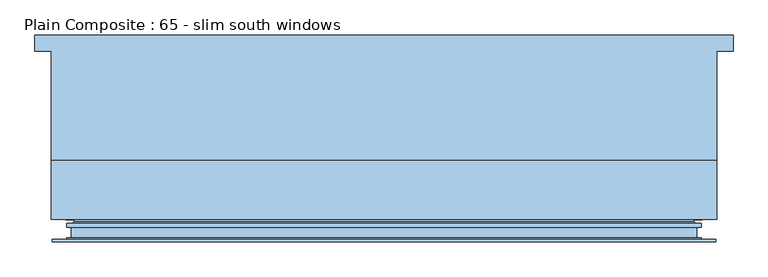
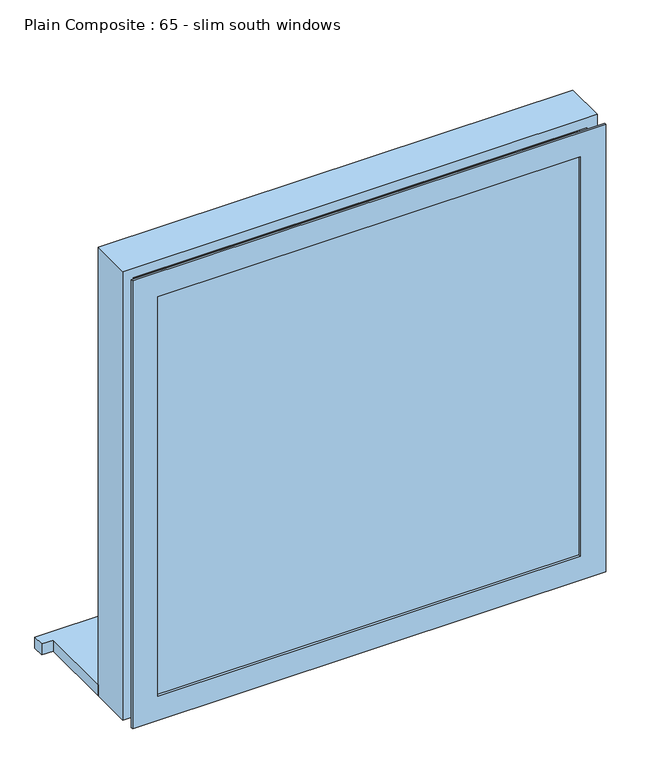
"""IFC4 building model written with IfcOpenShell, lengths in millimetres: window geometry, Plain Composite : 65 - slim south windows."""

from ifc_helpers import new_model, si_unit, frame, origin, place, context, project, spatial, polyline, outline, extrude, faceted_brep, source, transform, mapped, element, save


def plain_composite_65_slim_south_windows_501c9886(model_context):
    return source(origin(), model_context, "Body", "SolidModel", [
        extrude(outline(polyline([(-820.0, 161.5434322), (240.0, 161.5434322), (240.0, 136.5434322), (215.0, 136.5434322), (215.0, -29.4565678), (-795.0, -29.4565678), (-795.0, 136.5434322), (-820.0, 136.5434322), (-820.0, 161.5434322)])), frame((0.0, 0.0, 1100.0), z_axis=(0.0, 0.0, 1.0), x_axis=(1.0, 0.0, 0.0)), (0.0, 0.0, 1.0), 25.0),
        extrude(outline(polyline([(172.0, -123.4565678), (172.0, -147.4565678), (-752.0, -147.4565678), (-752.0, -123.4565678), (172.0, -123.4565678)])), frame((0.0, 0.0, 1143.0), z_axis=(0.0, 0.0, 1.0), x_axis=(1.0, 0.0, 0.0)), (0.0, 0.0, 1.0), 924.0),
        faceted_brep([(-740.0, -147.4565678, 1155.0), (-740.0, -147.4565678, 2055.0), (-740.0, -153.4565678, 2055.0), (-740.0, -153.4565678, 1155.0), (-752.0, -123.4565678, 1143.0), (-752.0, -123.4565678, 2067.0), (-752.0, -147.4565678, 2067.0), (-752.0, -147.4565678, 1143.0), (-740.0, -100.4565678, 1155.0), (-740.0, -100.4565678, 2055.0), (-740.0, -123.4565678, 2055.0), (-740.0, -123.4565678, 1155.0), (-762.3761005, -103.766907, 1132.6238995), (-762.3761005, -103.766907, 2077.3761005), (-762.3761005, -100.4565678, 2077.3761005), (-762.3761005, -100.4565678, 1132.6238995), (-760.3055676, -104.9623297, 1134.6944324), (-760.3055676, -104.9623297, 2075.3055676), (-760.3055676, -122.3525929, 1134.6944324), (-760.3055676, -122.3525929, 2075.3055676), (-765.0, -127.0470253, 1130.0), (-765.0, -127.0470253, 2080.0), (-770.0, -125.0470253, 1125.0), (-770.0, -125.0470253, 2085.0), (-770.0, -127.0470253, 2085.0), (-770.0, -127.0470253, 1125.0), (-772.0, -131.0470253, 1123.0), (-772.0, -131.0470253, 2087.0), (-772.0, -125.0470253, 2087.0), (-772.0, -125.0470253, 1123.0), (-770.0, -129.0470253, 1125.0), (-770.0, -129.0470253, 2085.0), (-770.0, -131.0470253, 2085.0), (-770.0, -131.0470253, 1125.0), (-765.0, -149.4565678, 1130.0), (-765.0, -149.4565678, 2080.0), (-765.0, -129.0470253, 2080.0), (-765.0, -129.0470253, 1130.0), (-770.0, -147.4565678, 1125.0), (-770.0, -147.4565678, 2085.0), (-770.0, -149.4565678, 2085.0), (-770.0, -149.4565678, 1125.0), (-772.0, -151.4565678, 1123.0), (-772.0, -151.4565678, 2087.0), (-772.0, -147.4565678, 2087.0), (-772.0, -147.4565678, 1123.0), (-792.0, -149.4565678, 1103.0), (-792.0, -149.4565678, 2107.0), (-792.0, -151.4565678, 2107.0), (-792.0, -151.4565678, 1103.0), (-794.0, -153.4565678, 1101.0), (-794.0, -153.4565678, 2109.0), (-794.0, -149.4565678, 2109.0), (-794.0, -149.4565678, 1101.0), (160.0, -147.4565678, 2055.0), (160.0, -153.4565678, 2055.0), (172.0, -123.4565678, 2067.0), (172.0, -147.4565678, 2067.0), (160.0, -100.4565678, 2055.0), (160.0, -123.4565678, 2055.0), (182.3761005, -103.766907, 2077.3761005), (182.3761005, -100.4565678, 2077.3761005), (180.3055676, -104.9623297, 2075.3055676), (180.3055676, -122.3525929, 2075.3055676), (185.0, -127.0470253, 2080.0), (190.0, -125.0470253, 2085.0), (190.0, -127.0470253, 2085.0), (192.0, -131.0470253, 2087.0), (192.0, -125.0470253, 2087.0), (190.0, -129.0470253, 2085.0), (190.0, -131.0470253, 2085.0), (185.0, -149.4565678, 2080.0), (185.0, -129.0470253, 2080.0), (190.0, -147.4565678, 2085.0), (190.0, -149.4565678, 2085.0), (192.0, -151.4565678, 2087.0), (192.0, -147.4565678, 2087.0), (212.0, -149.4565678, 2107.0), (212.0, -151.4565678, 2107.0), (214.0, -153.4565678, 2109.0), (214.0, -149.4565678, 2109.0), (160.0, -147.4565678, 1155.0), (160.0, -153.4565678, 1155.0), (172.0, -123.4565678, 1143.0), (172.0, -147.4565678, 1143.0), (160.0, -100.4565678, 1155.0), (160.0, -123.4565678, 1155.0), (182.3761005, -103.766907, 1132.6238995), (182.3761005, -100.4565678, 1132.6238995), (180.3055676, -104.9623297, 1134.6944324), (180.3055676, -122.3525929, 1134.6944324), (185.0, -127.0470253, 1130.0), (190.0, -125.0470253, 1125.0), (190.0, -127.0470253, 1125.0), (192.0, -131.0470253, 1123.0), (192.0, -125.0470253, 1123.0), (190.0, -129.0470253, 1125.0), (190.0, -131.0470253, 1125.0), (185.0, -149.4565678, 1130.0), (185.0, -129.0470253, 1130.0), (190.0, -147.4565678, 1125.0), (190.0, -149.4565678, 1125.0), (192.0, -151.4565678, 1123.0), (192.0, -147.4565678, 1123.0), (212.0, -149.4565678, 1103.0), (212.0, -151.4565678, 1103.0), (214.0, -153.4565678, 1101.0), (214.0, -149.4565678, 1101.0)], [[[0, 1, 2, 3]], [[4, 5, 6, 7]], [[8, 9, 10, 11]], [[12, 13, 14, 15]], [[16, 17, 13, 12]], [[18, 19, 17, 16]], [[20, 21, 19, 18]], [[22, 23, 24, 25]], [[26, 27, 28, 29]], [[30, 31, 32, 33]], [[34, 35, 36, 37]], [[38, 39, 40, 41]], [[42, 43, 44, 45]], [[46, 47, 48, 49]], [[50, 51, 52, 53]], [[1, 54, 55, 2]], [[5, 56, 57, 6]], [[9, 58, 59, 10]], [[13, 60, 61, 14]], [[17, 62, 60, 13]], [[19, 63, 62, 17]], [[21, 64, 63, 19]], [[23, 65, 66, 24]], [[27, 67, 68, 28]], [[31, 69, 70, 32]], [[35, 71, 72, 36]], [[39, 73, 74, 40]], [[43, 75, 76, 44]], [[47, 77, 78, 48]], [[51, 79, 80, 52]], [[54, 81, 82, 55]], [[56, 83, 84, 57]], [[58, 85, 86, 59]], [[60, 87, 88, 61]], [[62, 89, 87, 60]], [[63, 90, 89, 62]], [[64, 91, 90, 63]], [[65, 92, 93, 66]], [[67, 94, 95, 68]], [[69, 96, 97, 70]], [[71, 98, 99, 72]], [[73, 100, 101, 74]], [[75, 102, 103, 76]], [[77, 104, 105, 78]], [[79, 106, 107, 80]], [[51, 50, 106, 79], [3, 2, 55, 82]], [[81, 0, 3, 82]], [[7, 6, 57, 84], [1, 0, 81, 54]], [[83, 4, 7, 84]], [[5, 4, 83, 56], [11, 10, 59, 86]], [[85, 8, 11, 86]], [[15, 14, 61, 88], [9, 8, 85, 58]], [[87, 12, 15, 88]], [[89, 16, 12, 87]], [[90, 18, 16, 89]], [[91, 20, 18, 90]], [[25, 24, 66, 93], [21, 20, 91, 64]], [[92, 22, 25, 93]], [[29, 28, 68, 95], [23, 22, 92, 65]], [[94, 26, 29, 95]], [[27, 26, 94, 67], [33, 32, 70, 97]], [[96, 30, 33, 97]], [[31, 30, 96, 69], [37, 36, 72, 99]], [[98, 34, 37, 99]], [[41, 40, 74, 101], [35, 34, 98, 71]], [[100, 38, 41, 101]], [[45, 44, 76, 103], [39, 38, 100, 73]], [[102, 42, 45, 103]], [[49, 48, 78, 105], [43, 42, 102, 75]], [[104, 46, 49, 105]], [[53, 52, 80, 107], [47, 46, 104, 77]], [[106, 50, 53, 107]]]),
        faceted_brep([(-795.0, -119.4565678, 1100.0), (-795.0, -119.4565678, 2110.0), (-795.0, -29.4565678, 2110.0), (-795.0, -29.4565678, 1100.0), (-770.0, -99.4565678, 1125.0), (-770.0, -99.4565678, 2085.0), (-772.8108167, -119.4565678, 2087.8108167), (-772.8108167, -119.4565678, 1122.1891833), (-745.0, -29.4565678, 1150.0), (-745.0, -29.4565678, 2060.0), (-745.0, -99.4565678, 2060.0), (-745.0, -99.4565678, 1150.0), (215.0, -119.4565678, 2110.0), (215.0, -29.4565678, 2110.0), (190.0, -99.4565678, 2085.0), (192.8108167, -119.4565678, 2087.8108167), (165.0, -29.4565678, 2060.0), (165.0, -99.4565678, 2060.0), (215.0, -119.4565678, 1100.0), (215.0, -29.4565678, 1100.0), (190.0, -99.4565678, 1125.0), (192.8108167, -119.4565678, 1122.1891833), (165.0, -29.4565678, 1150.0), (165.0, -99.4565678, 1150.0)], [[[0, 1, 2, 3]], [[4, 5, 6, 7]], [[8, 9, 10, 11]], [[1, 12, 13, 2]], [[5, 14, 15, 6]], [[9, 16, 17, 10]], [[12, 18, 19, 13]], [[14, 20, 21, 15]], [[16, 22, 23, 17]], [[3, 2, 13, 19], [9, 8, 22, 16]], [[18, 0, 3, 19]], [[1, 0, 18, 12], [7, 6, 15, 21]], [[20, 4, 7, 21]], [[5, 4, 20, 14], [11, 10, 17, 23]], [[22, 8, 11, 23]]]),
    ])


if __name__ == "__main__":
    model = new_model("IFC4")
    model_context = context("Model", 3, world=origin())
    ifc_project = project(units=[si_unit("LENGTHUNIT", "METRE", prefix="MILLI")], contexts=[model_context])
    site = spatial("IfcSite", under=ifc_project)
    building = spatial("IfcBuilding", under=site)
    placement = place(None, origin())
    plain_composite_65_slim_south_windows_shape = plain_composite_65_slim_south_windows_501c9886(model_context)
    element("IfcWindow", 1, ObjectType="Plain Composite : 65 - slim south windows", at=placement, inside=building, context=model_context, shape_type="MappedRepresentation", body=[
        mapped(plain_composite_65_slim_south_windows_shape, transform((0.0, 0.0, 0.0), x_axis=(1.0, 0.0, 0.0), y_axis=(0.0, 1.0, 0.0), z_axis=(0.0, 0.0, 1.0))),
    ])
    save(model, "model.ifc")
